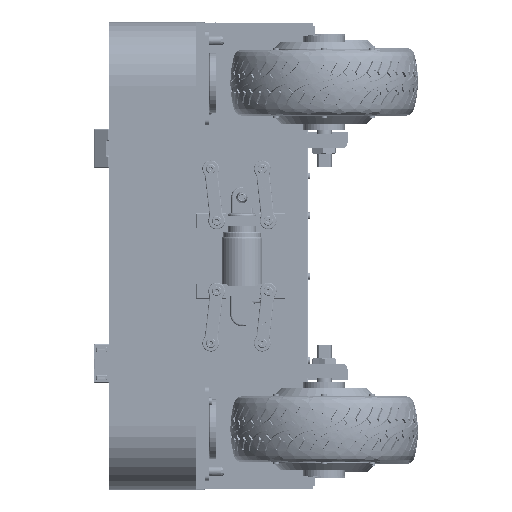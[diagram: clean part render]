
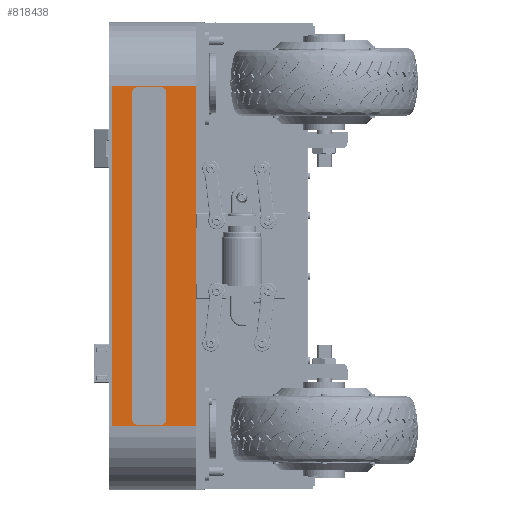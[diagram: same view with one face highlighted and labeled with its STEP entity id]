
A CAD part, left-side view. The second image highlights one B-rep face of the part: STEP entity #818438.
In plain terms, the highlighted planar face has unit normal (-1, 0, 0).
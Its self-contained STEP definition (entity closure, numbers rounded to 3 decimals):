
#7453 = CARTESIAN_POINT ( 'NONE',  ( -360., 0., 182. ) ) ;
#21940 = DIRECTION ( 'NONE',  ( 0., 1., 0. ) ) ;
#28128 = CARTESIAN_POINT ( 'NONE',  ( -360., -21.75, -250. ) ) ;
#44486 = VECTOR ( 'NONE', #592656, 1000. ) ;
#47276 = VECTOR ( 'NONE', #808332, 1000. ) ;
#65142 = VECTOR ( 'NONE', #135920, 1000. ) ;
#67546 = LINE ( 'NONE', #620584, #380981 ) ;
#69663 = CARTESIAN_POINT ( 'NONE',  ( -360., -89.5, 182. ) ) ;
#88627 = EDGE_CURVE ( 'NONE', #264131, #386824, #545666, .T. ) ;
#96658 = ORIENTED_EDGE ( 'NONE', *, *, #88627, .T. ) ;
#104251 = EDGE_CURVE ( 'NONE', #303344, #765745, #703113, .T. ) ;
#105982 = EDGE_CURVE ( 'NONE', #872576, #303344, #669320, .T. ) ;
#120128 = ORIENTED_EDGE ( 'NONE', *, *, #421288, .T. ) ;
#135920 = DIRECTION ( 'NONE',  ( 0., 0., -1. ) ) ;
#137245 = DIRECTION ( 'NONE',  ( 0., 0., -1. ) ) ;
#174841 = ORIENTED_EDGE ( 'NONE', *, *, #348905, .T. ) ;
#185547 = CARTESIAN_POINT ( 'NONE',  ( -360., -214., 182. ) ) ;
#189190 = VERTEX_POINT ( 'NONE', #342206 ) ;
#192158 = CARTESIAN_POINT ( 'NONE',  ( -360., -58.25, 174. ) ) ;
#193196 = DIRECTION ( 'NONE',  ( 1., 0., 0. ) ) ;
#197893 = CIRCLE ( 'NONE', #786034, 6.5 ) ;
#199086 = DIRECTION ( 'NONE',  ( 1., 0., 0. ) ) ;
#219692 = VECTOR ( 'NONE', #21940, 1000. ) ;
#242262 = CARTESIAN_POINT ( 'NONE',  ( -360., 0., -182. ) ) ;
#247682 = VERTEX_POINT ( 'NONE', #652605 ) ;
#254403 = LINE ( 'NONE', #566770, #65142 ) ;
#254829 = VERTEX_POINT ( 'NONE', #912543 ) ;
#264131 = VERTEX_POINT ( 'NONE', #295381 ) ;
#276695 = DIRECTION ( 'NONE',  ( 1., 0., 0. ) ) ;
#295381 = CARTESIAN_POINT ( 'NONE',  ( -360., -58.25, -174. ) ) ;
#303344 = VERTEX_POINT ( 'NONE', #380370 ) ;
#322577 = ORIENTED_EDGE ( 'NONE', *, *, #500309, .T. ) ;
#337933 = ORIENTED_EDGE ( 'NONE', *, *, #474526, .T. ) ;
#340509 = DIRECTION ( 'NONE',  ( 0., 0., 1. ) ) ;
#341174 = DIRECTION ( 'NONE',  ( 0., 0., -1. ) ) ;
#342206 = CARTESIAN_POINT ( 'NONE',  ( -360., -89.5, -182. ) ) ;
#348905 = EDGE_CURVE ( 'NONE', #586486, #789227, #254403, .T. ) ;
#358539 = EDGE_CURVE ( 'NONE', #426182, #247682, #709379, .T. ) ;
#367024 = LINE ( 'NONE', #592494, #897503 ) ;
#379885 = ORIENTED_EDGE ( 'NONE', *, *, #105982, .T. ) ;
#380032 = DIRECTION ( 'NONE',  ( 0., 0., 1. ) ) ;
#380370 = CARTESIAN_POINT ( 'NONE',  ( -360., -51.75, 180.5 ) ) ;
#380981 = VECTOR ( 'NONE', #380032, 1000. ) ;
#386824 = VERTEX_POINT ( 'NONE', #823408 ) ;
#408166 = ORIENTED_EDGE ( 'NONE', *, *, #755883, .T. ) ;
#416782 = DIRECTION ( 'NONE',  ( 0., 0., 1. ) ) ;
#421288 = EDGE_CURVE ( 'NONE', #386824, #254829, #718789, .T. ) ;
#426182 = VERTEX_POINT ( 'NONE', #486358 ) ;
#426889 = DIRECTION ( 'NONE',  ( -1., 0., 0. ) ) ;
#433797 = DIRECTION ( 'NONE',  ( 0., 0., -1. ) ) ;
#444800 = ORIENTED_EDGE ( 'NONE', *, *, #358539, .T. ) ;
#474526 = EDGE_CURVE ( 'NONE', #189190, #856981, #67546, .T. ) ;
#486358 = CARTESIAN_POINT ( 'NONE',  ( -360., -21.75, -174. ) ) ;
#496218 = CARTESIAN_POINT ( 'NONE',  ( -360., -58.25, -250. ) ) ;
#500309 = EDGE_CURVE ( 'NONE', #856981, #586486, #502922, .T. ) ;
#502922 = LINE ( 'NONE', #185547, #219692 ) ;
#506428 = AXIS2_PLACEMENT_3D ( 'NONE', #826921, #898797, #341174 ) ;
#535395 = ORIENTED_EDGE ( 'NONE', *, *, #545457, .T. ) ;
#545457 = EDGE_CURVE ( 'NONE', #765745, #264131, #813425, .T. ) ;
#545666 = CIRCLE ( 'NONE', #872150, 6.5 ) ;
#566770 = CARTESIAN_POINT ( 'NONE',  ( -360., 0., -250. ) ) ;
#582436 = CARTESIAN_POINT ( 'NONE',  ( -360., -28.25, -174. ) ) ;
#586486 = VERTEX_POINT ( 'NONE', #7453 ) ;
#592494 = CARTESIAN_POINT ( 'NONE',  ( -360., -214., -182. ) ) ;
#592656 = DIRECTION ( 'NONE',  ( 0., -1., 0. ) ) ;
#601381 = ORIENTED_EDGE ( 'NONE', *, *, #973106, .T. ) ;
#603545 = EDGE_LOOP ( 'NONE', ( #408166, #337933, #322577, #174841 ) ) ;
#620584 = CARTESIAN_POINT ( 'NONE',  ( -360., -89.5, -250. ) ) ;
#636892 = CARTESIAN_POINT ( 'NONE',  ( -360., -214., -180.5 ) ) ;
#644583 = EDGE_LOOP ( 'NONE', ( #444800, #601381, #379885, #913340, #535395, #96658, #120128, #797012 ) ) ;
#652224 = PLANE ( 'NONE',  #928219 ) ;
#652605 = CARTESIAN_POINT ( 'NONE',  ( -360., -21.75, 174. ) ) ;
#665614 = VECTOR ( 'NONE', #800304, 1000. ) ;
#669320 = LINE ( 'NONE', #817663, #44486 ) ;
#678108 = EDGE_CURVE ( 'NONE', #254829, #426182, #935430, .T. ) ;
#685228 = CARTESIAN_POINT ( 'NONE',  ( -360., -28.25, 174. ) ) ;
#703113 = CIRCLE ( 'NONE', #506428, 6.5 ) ;
#709379 = LINE ( 'NONE', #28128, #875702 ) ;
#718789 = LINE ( 'NONE', #636892, #665614 ) ;
#738871 = AXIS2_PLACEMENT_3D ( 'NONE', #582436, #193196, #433797 ) ;
#747553 = CARTESIAN_POINT ( 'NONE',  ( -360., -51.75, -174. ) ) ;
#748131 = CARTESIAN_POINT ( 'NONE',  ( -360., -28.25, 180.5 ) ) ;
#755883 = EDGE_CURVE ( 'NONE', #789227, #189190, #367024, .T. ) ;
#765745 = VERTEX_POINT ( 'NONE', #192158 ) ;
#786034 = AXIS2_PLACEMENT_3D ( 'NONE', #685228, #199086, #137245 ) ;
#789227 = VERTEX_POINT ( 'NONE', #242262 ) ;
#797012 = ORIENTED_EDGE ( 'NONE', *, *, #678108, .T. ) ;
#800304 = DIRECTION ( 'NONE',  ( 0., 1., 0. ) ) ;
#808332 = DIRECTION ( 'NONE',  ( 0., 0., -1. ) ) ;
#813425 = LINE ( 'NONE', #496218, #47276 ) ;
#815707 = FACE_OUTER_BOUND ( 'NONE', #603545, .T. ) ;
#817663 = CARTESIAN_POINT ( 'NONE',  ( -360., -214., 180.5 ) ) ;
#818438 = ADVANCED_FACE ( 'NONE', ( #825838, #815707 ), #652224, .T. ) ;
#823408 = CARTESIAN_POINT ( 'NONE',  ( -360., -51.75, -180.5 ) ) ;
#825838 = FACE_BOUND ( 'NONE', #644583, .T. ) ;
#826921 = CARTESIAN_POINT ( 'NONE',  ( -360., -51.75, 174. ) ) ;
#847776 = DIRECTION ( 'NONE',  ( 0., -1., 0. ) ) ;
#856981 = VERTEX_POINT ( 'NONE', #69663 ) ;
#872150 = AXIS2_PLACEMENT_3D ( 'NONE', #747553, #276695, #967836 ) ;
#872576 = VERTEX_POINT ( 'NONE', #748131 ) ;
#875702 = VECTOR ( 'NONE', #340509, 1000. ) ;
#897503 = VECTOR ( 'NONE', #847776, 1000. ) ;
#898797 = DIRECTION ( 'NONE',  ( 1., 0., 0. ) ) ;
#912543 = CARTESIAN_POINT ( 'NONE',  ( -360., -28.25, -180.5 ) ) ;
#913340 = ORIENTED_EDGE ( 'NONE', *, *, #104251, .T. ) ;
#928219 = AXIS2_PLACEMENT_3D ( 'NONE', #964367, #426889, #416782 ) ;
#935430 = CIRCLE ( 'NONE', #738871, 6.5 ) ;
#964367 = CARTESIAN_POINT ( 'NONE',  ( -360., -214., -250. ) ) ;
#967836 = DIRECTION ( 'NONE',  ( 0., 0., -1. ) ) ;
#973106 = EDGE_CURVE ( 'NONE', #247682, #872576, #197893, .T. ) ;
